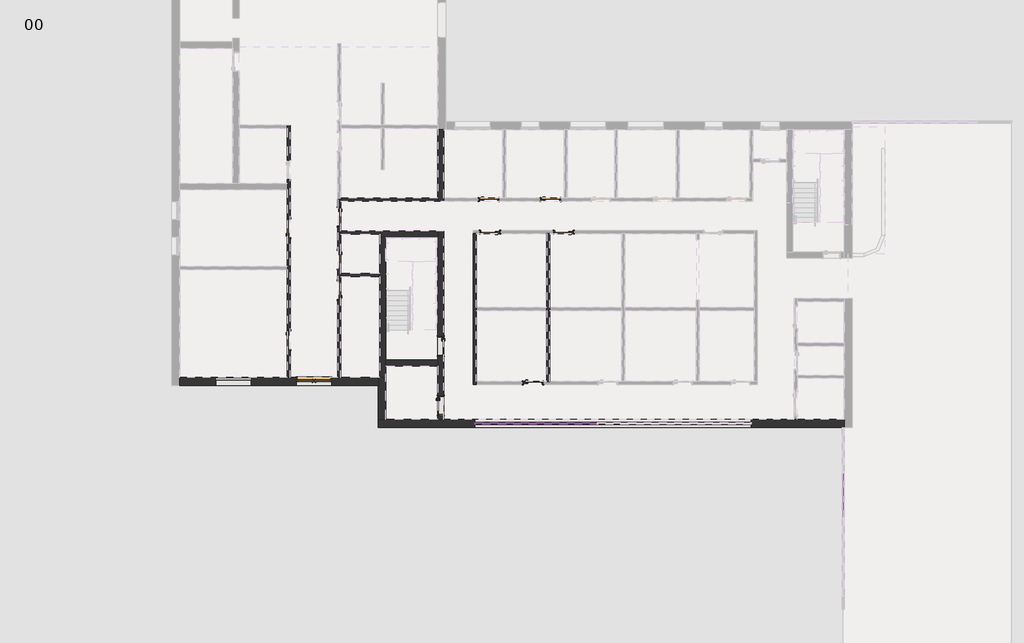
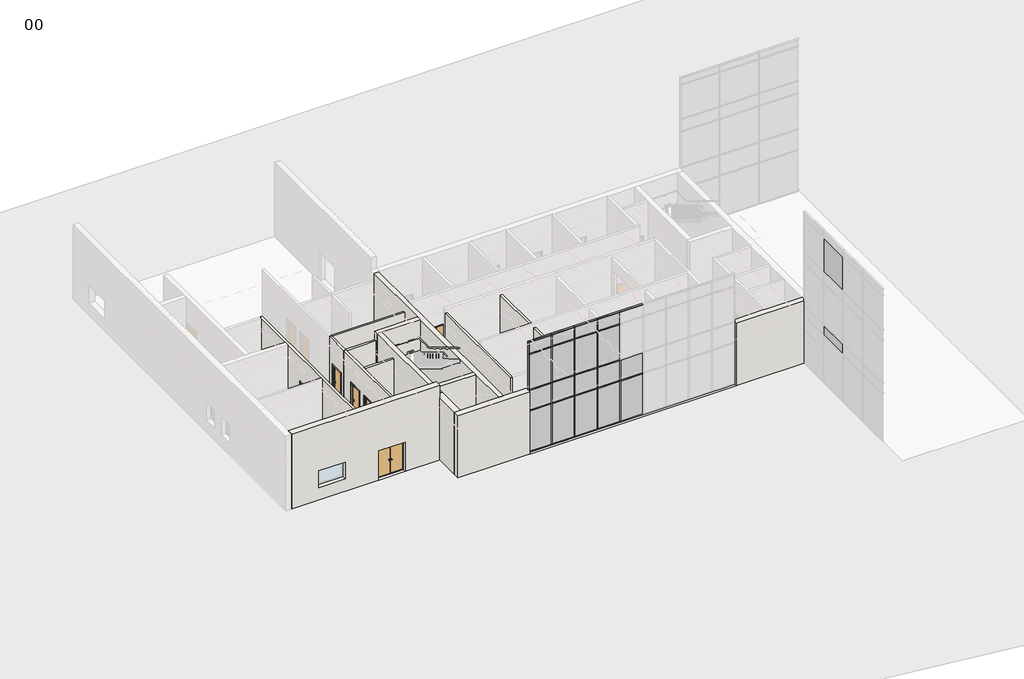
# One storey, part 2 of 11: 39 members, 20 plates, 15 walls, 13 doors.
"""IFC4 building model written with IfcOpenShell, lengths in millimetres."""

from ifc_helpers import new_model, si_unit, frame, origin, origin_with_axes, place, context, project, spatial, polyline, outline, extrude, faceted_brep, transform, mapped, element, save
from components import doors_intsgl_1_1010x2110mm_7920e6b8, doors_intsgl_1_1010x2110mm_12a6edaf, doors_intsgl_1_1010x2110mm_5517da8e, doors_intsgl_1_1010x2110mm_5eebe40c, doors_sco_extdbl_flush_1810x2110mm_3cdf6cdb, rectangular_mullion_curtainwallmullion_rectangular_generic_c971d07e, rectangular_mullion_curtainwallmullion_rectangular_generic_e6673756, rectangular_mullion_curtainwallmullion_rectangular_generic_facbbd22, rectangular_mullion_curtainwallmullion_rectangular_generic_58e5e5d2, rectangular_mullion_curtainwallmullion_rectangular_generic_63c9f2cf, rectangular_mullion_curtainwallmullion_rectangular_generic_d70bf6dd, rectangular_mullion_curtainwallmullion_rectangular_generic_654ac675, rectangular_mullion_curtainwallmullion_rectangular_generic_e7c47ca9, rectangular_mullion_curtainwallmullion_rectangular_generic_f3eef52e, rectangular_mullion_curtainwallmullion_rectangular_generic_c0600e94, rectangular_mullion_curtainwallmullion_rectangular_generic_0bcd7f07, rectangular_mullion_curtainwallmullion_rectangular_generic_3bdb59d8, system_panel_curtainpanel_glazed_c42a0534, system_panel_curtainpanel_glazed_c680861d, system_panel_curtainpanel_glazed_7c054268, system_panel_curtainpanel_solid_d52ec4f6, system_panel_curtainpanel_solid_5b00d7df, system_panel_curtainpanel_solid_a154ba9f

model = new_model("IFC4")

# Units and contexts
model_context = context("Model", 3, world=origin())
ifc_project = project(units=[si_unit("LENGTHUNIT", "METRE", prefix="MILLI")], contexts=[model_context])

# Site, building, storey
site = spatial("IfcSite", under=ifc_project)
building = spatial("IfcBuilding", under=site)
storey = spatial("IfcBuildingStorey", under=building, Name="00", Elevation=0.0)

# Doors
placement = place(None, origin())
doors_intsgl_1_1010x2110mm_shape = doors_intsgl_1_1010x2110mm_7920e6b8(model_context)
element("IfcDoor", 1, ObjectType="Doors_IntSgl_1 : 1010x2110mm", at=placement, inside=storey, context=model_context, shape_type="MappedRepresentation", body=[
    mapped(doors_intsgl_1_1010x2110mm_shape, transform((417435.3206883, -392289.0026386, 0.0), x_axis=(0.0, -1.0, 0.0), y_axis=(1.0, 0.0, 0.0), z_axis=(0.0, 0.0, 1.0))),
])
doors_intsgl_1_1010x2110mm_2_shape = doors_intsgl_1_1010x2110mm_12a6edaf(model_context)
element("IfcDoor", 2, ObjectType="Doors_IntSgl_1 : 1010x2110mm", at=placement, inside=storey, context=model_context, shape_type="MappedRepresentation", body=[
    mapped(doors_intsgl_1_1010x2110mm_2_shape, transform((427617.3206883, -385124.0026386, 0.0), x_axis=(1.0, 0.0, 0.0), y_axis=(0.0, 1.0, 0.0), z_axis=(0.0, 0.0, 1.0))),
])
element("IfcDoor", 3, ObjectType="Doors_IntSgl_1 : 1010x2110mm", at=placement, inside=storey, context=model_context, shape_type="MappedRepresentation", body=[
    mapped(doors_intsgl_1_1010x2110mm_2_shape, transform((430767.3206883, -385124.0026386, 0.0), x_axis=(1.0, 0.0, 0.0), y_axis=(0.0, 1.0, 0.0), z_axis=(0.0, 0.0, 1.0))),
])
element("IfcDoor", 4, ObjectType="Doors_IntSgl_1 : 1010x2110mm", at=placement, inside=storey, context=model_context, shape_type="MappedRepresentation", body=[
    mapped(doors_intsgl_1_1010x2110mm_2_shape, transform((417435.3206883, -386584.0026386, 0.0), x_axis=(0.0, 1.0, 0.0), y_axis=(-1.0, 0.0, 0.0), z_axis=(0.0, 0.0, 1.0))),
])
element("IfcDoor", 5, ObjectType="Doors_IntSgl_1 : 1010x2110mm", at=placement, inside=storey, context=model_context, shape_type="MappedRepresentation", body=[
    mapped(doors_intsgl_1_1010x2110mm_shape, transform((419987.3206883, -389744.0026386, 0.0), x_axis=(0.0, 1.0, 0.0), y_axis=(-1.0, 0.0, 0.0), z_axis=(0.0, 0.0, 1.0))),
])
element("IfcDoor", 6, ObjectType="Doors_IntSgl_1 : 1010x2110mm", at=placement, inside=storey, context=model_context, shape_type="MappedRepresentation", body=[
    mapped(doors_intsgl_1_1010x2110mm_2_shape, transform((419987.3206883, -388184.0026386, 0.0), x_axis=(0.0, -1.0, 0.0), y_axis=(1.0, 0.0, 0.0), z_axis=(0.0, 0.0, 1.0))),
])
element("IfcDoor", 7, ObjectType="Doors_IntSgl_1 : 1010x2110mm", at=placement, inside=storey, context=model_context, shape_type="MappedRepresentation", body=[
    mapped(doors_intsgl_1_1010x2110mm_2_shape, transform((419987.3206883, -386006.5026386, 0.0), x_axis=(0.0, -1.0, 0.0), y_axis=(1.0, 0.0, 0.0), z_axis=(0.0, 0.0, 1.0))),
])
element("IfcDoor", 8, ObjectType="Doors_IntSgl_1 : 1010x2110mm", at=placement, inside=storey, context=model_context, shape_type="MappedRepresentation", body=[
    mapped(doors_intsgl_1_1010x2110mm_2_shape, transform((429873.3206883, -394469.0026386, 0.0), x_axis=(1.0, 0.0, 0.0), y_axis=(0.0, 1.0, 0.0), z_axis=(0.0, 0.0, 1.0))),
])
element("IfcDoor", 9, ObjectType="Doors_IntSgl_1 : 1010x2110mm", at=placement, inside=storey, context=model_context, shape_type="MappedRepresentation", body=[
    mapped(doors_intsgl_1_1010x2110mm_2_shape, transform((431433.3206883, -386774.0026386, 0.0), x_axis=(-1.0, 0.0, 0.0), y_axis=(0.0, -1.0, 0.0), z_axis=(0.0, 0.0, 1.0))),
])
element("IfcDoor", 10, ObjectType="Doors_IntSgl_1 : 1010x2110mm", at=placement, inside=storey, context=model_context, shape_type="MappedRepresentation", body=[
    mapped(doors_intsgl_1_1010x2110mm_2_shape, transform((427677.3206883, -386774.0026386, 0.0), x_axis=(-1.0, 0.0, 0.0), y_axis=(0.0, -1.0, 0.0), z_axis=(0.0, 0.0, 1.0))),
])
doors_intsgl_1_1010x2110mm_3_shape = doors_intsgl_1_1010x2110mm_5517da8e(model_context)
element("IfcDoor", 11, ObjectType="Doors_IntSgl_1 : 1010x2110mm", at=placement, inside=storey, context=model_context, shape_type="MappedRepresentation", body=[
    mapped(doors_intsgl_1_1010x2110mm_3_shape, transform((425167.3206883, -392594.0026386, 0.0), x_axis=(0.0, -1.0, 0.0), y_axis=(1.0, 0.0, 0.0), z_axis=(0.0, 0.0, 1.0))),
])
doors_intsgl_1_1010x2110mm_4_shape = doors_intsgl_1_1010x2110mm_5eebe40c(model_context)
element("IfcDoor", 12, ObjectType="Doors_IntSgl_1 : 1010x2110mm", at=placement, inside=storey, context=model_context, shape_type="MappedRepresentation", body=[
    mapped(doors_intsgl_1_1010x2110mm_4_shape, transform((425167.3206883, -395623.0026386, 0.0), x_axis=(0.0, -1.0, 0.0), y_axis=(1.0, 0.0, 0.0), z_axis=(0.0, 0.0, 1.0))),
])
doors_sco_extdbl_flush_1810x2110mm_shape = doors_sco_extdbl_flush_1810x2110mm_3cdf6cdb(model_context)
element("IfcDoor", 13, ObjectType="Doors_SCO_ExtDbl_Flush : 1810x2110mm", at=placement, inside=storey, context=model_context, shape_type="MappedRepresentation", body=[
    mapped(doors_sco_extdbl_flush_1810x2110mm_shape, transform((418711.3206883, -394395.0026386, 0.0), x_axis=(1.0, 0.0, 0.0), y_axis=(0.0, 1.0, 0.0), z_axis=(0.0, 0.0, 1.0))),
])

# Members
rectangular_mullion_curtainwallmullion_rectangular_generic_shape = rectangular_mullion_curtainwallmullion_rectangular_generic_c971d07e(model_context)
element("IfcMember", 14, ObjectType="Rectangular Mullion : CurtainWallMullion_Rectangular_Generic", at=placement, inside=storey, context=model_context, shape_type="MappedRepresentation", body=[
    mapped(rectangular_mullion_curtainwallmullion_rectangular_generic_shape, transform((433166.7651328, -396529.0026386, 8000.0), x_axis=(0.0, 0.0, 1.0), y_axis=(0.0, 1.0, 0.0), z_axis=(-1.0, 0.0, 0.0))),
])
element("IfcMember", 15, ObjectType="Rectangular Mullion : CurtainWallMullion_Rectangular_Generic", at=placement, inside=storey, context=model_context, shape_type="MappedRepresentation", body=[
    mapped(rectangular_mullion_curtainwallmullion_rectangular_generic_shape, transform((431605.6540218, -396529.0026386, 8000.0), x_axis=(0.0, 0.0, 1.0), y_axis=(0.0, 1.0, 0.0), z_axis=(-1.0, 0.0, 0.0))),
])
element("IfcMember", 16, ObjectType="Rectangular Mullion : CurtainWallMullion_Rectangular_Generic", at=placement, inside=storey, context=model_context, shape_type="MappedRepresentation", body=[
    mapped(rectangular_mullion_curtainwallmullion_rectangular_generic_shape, transform((430044.5429107, -396529.0026386, 8000.0), x_axis=(0.0, 0.0, 1.0), y_axis=(0.0, 1.0, 0.0), z_axis=(-1.0, 0.0, 0.0))),
])
element("IfcMember", 17, ObjectType="Rectangular Mullion : CurtainWallMullion_Rectangular_Generic", at=placement, inside=storey, context=model_context, shape_type="MappedRepresentation", body=[
    mapped(rectangular_mullion_curtainwallmullion_rectangular_generic_shape, transform((428483.4317997, -396529.0026386, 8000.0), x_axis=(0.0, 0.0, 1.0), y_axis=(0.0, 1.0, 0.0), z_axis=(-1.0, 0.0, 0.0))),
])
element("IfcMember", 18, ObjectType="Rectangular Mullion : CurtainWallMullion_Rectangular_Generic", at=placement, inside=storey, context=model_context, shape_type="MappedRepresentation", body=[
    mapped(rectangular_mullion_curtainwallmullion_rectangular_generic_shape, transform((433166.7651328, -396529.0026386, 0.0), x_axis=(0.0, 0.0, -1.0), y_axis=(0.0, 1.0, 0.0), z_axis=(1.0, 0.0, 0.0))),
])
element("IfcMember", 19, ObjectType="Rectangular Mullion : CurtainWallMullion_Rectangular_Generic", at=placement, inside=storey, context=model_context, shape_type="MappedRepresentation", body=[
    mapped(rectangular_mullion_curtainwallmullion_rectangular_generic_shape, transform((431605.6540218, -396529.0026386, 0.0), x_axis=(0.0, 0.0, -1.0), y_axis=(0.0, 1.0, 0.0), z_axis=(1.0, 0.0, 0.0))),
])
element("IfcMember", 20, ObjectType="Rectangular Mullion : CurtainWallMullion_Rectangular_Generic", at=placement, inside=storey, context=model_context, shape_type="MappedRepresentation", body=[
    mapped(rectangular_mullion_curtainwallmullion_rectangular_generic_shape, transform((430044.5429107, -396529.0026386, 0.0), x_axis=(0.0, 0.0, -1.0), y_axis=(0.0, 1.0, 0.0), z_axis=(1.0, 0.0, 0.0))),
])
rectangular_mullion_curtainwallmullion_rectangular_generic_2_shape = rectangular_mullion_curtainwallmullion_rectangular_generic_e6673756(model_context)
element("IfcMember", 21, ObjectType="Rectangular Mullion : CurtainWallMullion_Rectangular_Generic", at=placement, inside=storey, context=model_context, shape_type="MappedRepresentation", body=[
    mapped(rectangular_mullion_curtainwallmullion_rectangular_generic_2_shape, transform((433191.7651328, -396529.0026386, 3000.0), x_axis=(0.0, 0.0, 1.0), y_axis=(0.0, 1.0, 0.0), z_axis=(-1.0, 0.0, 0.0))),
])
element("IfcMember", 22, ObjectType="Rectangular Mullion : CurtainWallMullion_Rectangular_Generic", at=placement, inside=storey, context=model_context, shape_type="MappedRepresentation", body=[
    mapped(rectangular_mullion_curtainwallmullion_rectangular_generic_2_shape, transform((431630.6540218, -396529.0026386, 3000.0), x_axis=(0.0, 0.0, 1.0), y_axis=(0.0, 1.0, 0.0), z_axis=(-1.0, 0.0, 0.0))),
])
element("IfcMember", 23, ObjectType="Rectangular Mullion : CurtainWallMullion_Rectangular_Generic", at=placement, inside=storey, context=model_context, shape_type="MappedRepresentation", body=[
    mapped(rectangular_mullion_curtainwallmullion_rectangular_generic_2_shape, transform((430069.5429107, -396529.0026386, 3000.0), x_axis=(0.0, 0.0, 1.0), y_axis=(0.0, 1.0, 0.0), z_axis=(-1.0, 0.0, 0.0))),
])
element("IfcMember", 24, ObjectType="Rectangular Mullion : CurtainWallMullion_Rectangular_Generic", at=placement, inside=storey, context=model_context, shape_type="MappedRepresentation", body=[
    mapped(rectangular_mullion_curtainwallmullion_rectangular_generic_2_shape, transform((428508.4317997, -396529.0026386, 3000.0), x_axis=(0.0, 0.0, 1.0), y_axis=(0.0, 1.0, 0.0), z_axis=(-1.0, 0.0, 0.0))),
])
element("IfcMember", 25, ObjectType="Rectangular Mullion : CurtainWallMullion_Rectangular_Generic", at=placement, inside=storey, context=model_context, shape_type="MappedRepresentation", body=[
    mapped(rectangular_mullion_curtainwallmullion_rectangular_generic_2_shape, transform((426947.3206883, -396529.0026386, 3000.0), x_axis=(0.0, 0.0, 1.0), y_axis=(0.0, 1.0, 0.0), z_axis=(-1.0, 0.0, 0.0))),
])
element("IfcMember", 26, ObjectType="Rectangular Mullion : CurtainWallMullion_Rectangular_Generic", at=placement, inside=storey, context=model_context, shape_type="MappedRepresentation", body=[
    mapped(rectangular_mullion_curtainwallmullion_rectangular_generic_2_shape, transform((431630.6540218, -396529.0026386, 4500.0), x_axis=(0.0, 0.0, 1.0), y_axis=(0.0, 1.0, 0.0), z_axis=(-1.0, 0.0, 0.0))),
])
element("IfcMember", 27, ObjectType="Rectangular Mullion : CurtainWallMullion_Rectangular_Generic", at=placement, inside=storey, context=model_context, shape_type="MappedRepresentation", body=[
    mapped(rectangular_mullion_curtainwallmullion_rectangular_generic_2_shape, transform((430069.5429107, -396529.0026386, 4500.0), x_axis=(0.0, 0.0, 1.0), y_axis=(0.0, 1.0, 0.0), z_axis=(-1.0, 0.0, 0.0))),
])
element("IfcMember", 28, ObjectType="Rectangular Mullion : CurtainWallMullion_Rectangular_Generic", at=placement, inside=storey, context=model_context, shape_type="MappedRepresentation", body=[
    mapped(rectangular_mullion_curtainwallmullion_rectangular_generic_2_shape, transform((428508.4317997, -396529.0026386, 4500.0), x_axis=(0.0, 0.0, 1.0), y_axis=(0.0, 1.0, 0.0), z_axis=(-1.0, 0.0, 0.0))),
])
element("IfcMember", 29, ObjectType="Rectangular Mullion : CurtainWallMullion_Rectangular_Generic", at=placement, inside=storey, context=model_context, shape_type="MappedRepresentation", body=[
    mapped(rectangular_mullion_curtainwallmullion_rectangular_generic_2_shape, transform((426947.3206883, -396529.0026386, 4500.0), x_axis=(0.0, 0.0, 1.0), y_axis=(0.0, 1.0, 0.0), z_axis=(-1.0, 0.0, 0.0))),
])
element("IfcMember", 30, ObjectType="Rectangular Mullion : CurtainWallMullion_Rectangular_Generic", at=placement, inside=storey, context=model_context, shape_type="MappedRepresentation", body=[
    mapped(rectangular_mullion_curtainwallmullion_rectangular_generic_2_shape, transform((431630.6540218, -396529.0026386, 7100.0), x_axis=(0.0, 0.0, 1.0), y_axis=(0.0, 1.0, 0.0), z_axis=(-1.0, 0.0, 0.0))),
])
element("IfcMember", 31, ObjectType="Rectangular Mullion : CurtainWallMullion_Rectangular_Generic", at=placement, inside=storey, context=model_context, shape_type="MappedRepresentation", body=[
    mapped(rectangular_mullion_curtainwallmullion_rectangular_generic_2_shape, transform((430069.5429107, -396529.0026386, 7100.0), x_axis=(0.0, 0.0, 1.0), y_axis=(0.0, 1.0, 0.0), z_axis=(-1.0, 0.0, 0.0))),
])
element("IfcMember", 32, ObjectType="Rectangular Mullion : CurtainWallMullion_Rectangular_Generic", at=placement, inside=storey, context=model_context, shape_type="MappedRepresentation", body=[
    mapped(rectangular_mullion_curtainwallmullion_rectangular_generic_2_shape, transform((428508.4317997, -396529.0026386, 7100.0), x_axis=(0.0, 0.0, 1.0), y_axis=(0.0, 1.0, 0.0), z_axis=(-1.0, 0.0, 0.0))),
])
element("IfcMember", 33, ObjectType="Rectangular Mullion : CurtainWallMullion_Rectangular_Generic", at=placement, inside=storey, context=model_context, shape_type="MappedRepresentation", body=[
    mapped(rectangular_mullion_curtainwallmullion_rectangular_generic_2_shape, transform((426947.3206883, -396529.0026386, 7100.0), x_axis=(0.0, 0.0, 1.0), y_axis=(0.0, 1.0, 0.0), z_axis=(-1.0, 0.0, 0.0))),
])
rectangular_mullion_curtainwallmullion_rectangular_generic_3_shape = rectangular_mullion_curtainwallmullion_rectangular_generic_facbbd22(model_context)
element("IfcMember", 34, ObjectType="Rectangular Mullion : CurtainWallMullion_Rectangular_Generic", at=placement, inside=storey, context=model_context, shape_type="MappedRepresentation", body=[
    mapped(rectangular_mullion_curtainwallmullion_rectangular_generic_3_shape, transform((426897.3206883, -396529.0026386, 8000.0), x_axis=(0.0, 0.0, 1.0), y_axis=(0.0, 1.0, 0.0), z_axis=(-1.0, 0.0, 0.0))),
])
rectangular_mullion_curtainwallmullion_rectangular_generic_4_shape = rectangular_mullion_curtainwallmullion_rectangular_generic_58e5e5d2(model_context)
element("IfcMember", 35, ObjectType="Rectangular Mullion : CurtainWallMullion_Rectangular_Generic", at=placement, inside=storey, context=model_context, shape_type="MappedRepresentation", body=[
    mapped(rectangular_mullion_curtainwallmullion_rectangular_generic_4_shape, transform((428483.4317997, -396529.0026386, 0.0), x_axis=(0.0, 0.0, -1.0), y_axis=(0.0, 1.0, 0.0), z_axis=(1.0, 0.0, 0.0))),
])
rectangular_mullion_curtainwallmullion_rectangular_generic_5_shape = rectangular_mullion_curtainwallmullion_rectangular_generic_63c9f2cf(model_context)
element("IfcMember", 36, ObjectType="Rectangular Mullion : CurtainWallMullion_Rectangular_Generic", at=placement, inside=storey, context=model_context, shape_type="MappedRepresentation", body=[
    mapped(rectangular_mullion_curtainwallmullion_rectangular_generic_5_shape, transform((431605.6540218, -396529.0026386, 7100.0), x_axis=(-1.0, 0.0, 0.0), y_axis=(0.0, 1.0, 0.0), z_axis=(0.0, 0.0, -1.0))),
])
element("IfcMember", 37, ObjectType="Rectangular Mullion : CurtainWallMullion_Rectangular_Generic", at=placement, inside=storey, context=model_context, shape_type="MappedRepresentation", body=[
    mapped(rectangular_mullion_curtainwallmullion_rectangular_generic_5_shape, transform((430044.5429107, -396529.0026386, 7100.0), x_axis=(-1.0, 0.0, 0.0), y_axis=(0.0, 1.0, 0.0), z_axis=(0.0, 0.0, -1.0))),
])
element("IfcMember", 38, ObjectType="Rectangular Mullion : CurtainWallMullion_Rectangular_Generic", at=placement, inside=storey, context=model_context, shape_type="MappedRepresentation", body=[
    mapped(rectangular_mullion_curtainwallmullion_rectangular_generic_5_shape, transform((428483.4317997, -396529.0026386, 7100.0), x_axis=(-1.0, 0.0, 0.0), y_axis=(0.0, 1.0, 0.0), z_axis=(0.0, 0.0, -1.0))),
])
rectangular_mullion_curtainwallmullion_rectangular_generic_6_shape = rectangular_mullion_curtainwallmullion_rectangular_generic_d70bf6dd(model_context)
element("IfcMember", 39, ObjectType="Rectangular Mullion : CurtainWallMullion_Rectangular_Generic", at=placement, inside=storey, context=model_context, shape_type="MappedRepresentation", body=[
    mapped(rectangular_mullion_curtainwallmullion_rectangular_generic_6_shape, transform((426897.3206883, -396529.0026386, 7100.0), x_axis=(-1.0, 0.0, 0.0), y_axis=(0.0, 1.0, 0.0), z_axis=(0.0, 0.0, -1.0))),
])
rectangular_mullion_curtainwallmullion_rectangular_generic_7_shape = rectangular_mullion_curtainwallmullion_rectangular_generic_654ac675(model_context)
element("IfcMember", 40, ObjectType="Rectangular Mullion : CurtainWallMullion_Rectangular_Generic", at=placement, inside=storey, context=model_context, shape_type="MappedRepresentation", body=[
    mapped(rectangular_mullion_curtainwallmullion_rectangular_generic_7_shape, transform((431605.6540218, -396529.0026386, 4500.0), x_axis=(-1.0, 0.0, 0.0), y_axis=(0.0, 1.0, 0.0), z_axis=(0.0, 0.0, -1.0))),
])
element("IfcMember", 41, ObjectType="Rectangular Mullion : CurtainWallMullion_Rectangular_Generic", at=placement, inside=storey, context=model_context, shape_type="MappedRepresentation", body=[
    mapped(rectangular_mullion_curtainwallmullion_rectangular_generic_7_shape, transform((430044.5429107, -396529.0026386, 4500.0), x_axis=(-1.0, 0.0, 0.0), y_axis=(0.0, 1.0, 0.0), z_axis=(0.0, 0.0, -1.0))),
])
element("IfcMember", 42, ObjectType="Rectangular Mullion : CurtainWallMullion_Rectangular_Generic", at=placement, inside=storey, context=model_context, shape_type="MappedRepresentation", body=[
    mapped(rectangular_mullion_curtainwallmullion_rectangular_generic_7_shape, transform((428483.4317997, -396529.0026386, 4500.0), x_axis=(-1.0, 0.0, 0.0), y_axis=(0.0, 1.0, 0.0), z_axis=(0.0, 0.0, -1.0))),
])
rectangular_mullion_curtainwallmullion_rectangular_generic_8_shape = rectangular_mullion_curtainwallmullion_rectangular_generic_e7c47ca9(model_context)
element("IfcMember", 43, ObjectType="Rectangular Mullion : CurtainWallMullion_Rectangular_Generic", at=placement, inside=storey, context=model_context, shape_type="MappedRepresentation", body=[
    mapped(rectangular_mullion_curtainwallmullion_rectangular_generic_8_shape, transform((426897.3206883, -396529.0026386, 4500.0), x_axis=(-1.0, 0.0, 0.0), y_axis=(0.0, 1.0, 0.0), z_axis=(0.0, 0.0, -1.0))),
])
rectangular_mullion_curtainwallmullion_rectangular_generic_9_shape = rectangular_mullion_curtainwallmullion_rectangular_generic_f3eef52e(model_context)
element("IfcMember", 44, ObjectType="Rectangular Mullion : CurtainWallMullion_Rectangular_Generic", at=placement, inside=storey, context=model_context, shape_type="MappedRepresentation", body=[
    mapped(rectangular_mullion_curtainwallmullion_rectangular_generic_9_shape, transform((433166.7651328, -396529.0026386, 50.0), x_axis=(-1.0, 0.0, 0.0), y_axis=(0.0, 1.0, 0.0), z_axis=(0.0, 0.0, -1.0))),
])
element("IfcMember", 45, ObjectType="Rectangular Mullion : CurtainWallMullion_Rectangular_Generic", at=placement, inside=storey, context=model_context, shape_type="MappedRepresentation", body=[
    mapped(rectangular_mullion_curtainwallmullion_rectangular_generic_9_shape, transform((431605.6540218, -396529.0026386, 50.0), x_axis=(-1.0, 0.0, 0.0), y_axis=(0.0, 1.0, 0.0), z_axis=(0.0, 0.0, -1.0))),
])
element("IfcMember", 46, ObjectType="Rectangular Mullion : CurtainWallMullion_Rectangular_Generic", at=placement, inside=storey, context=model_context, shape_type="MappedRepresentation", body=[
    mapped(rectangular_mullion_curtainwallmullion_rectangular_generic_9_shape, transform((430044.5429107, -396529.0026386, 50.0), x_axis=(-1.0, 0.0, 0.0), y_axis=(0.0, 1.0, 0.0), z_axis=(0.0, 0.0, -1.0))),
])
element("IfcMember", 47, ObjectType="Rectangular Mullion : CurtainWallMullion_Rectangular_Generic", at=placement, inside=storey, context=model_context, shape_type="MappedRepresentation", body=[
    mapped(rectangular_mullion_curtainwallmullion_rectangular_generic_9_shape, transform((428483.4317997, -396529.0026386, 50.0), x_axis=(-1.0, 0.0, 0.0), y_axis=(0.0, 1.0, 0.0), z_axis=(0.0, 0.0, -1.0))),
])
rectangular_mullion_curtainwallmullion_rectangular_generic_10_shape = rectangular_mullion_curtainwallmullion_rectangular_generic_c0600e94(model_context)
element("IfcMember", 48, ObjectType="Rectangular Mullion : CurtainWallMullion_Rectangular_Generic", at=placement, inside=storey, context=model_context, shape_type="MappedRepresentation", body=[
    mapped(rectangular_mullion_curtainwallmullion_rectangular_generic_10_shape, transform((431605.6540218, -396529.0026386, 3000.0), x_axis=(-1.0, 0.0, 0.0), y_axis=(0.0, 1.0, 0.0), z_axis=(0.0, 0.0, -1.0))),
])
element("IfcMember", 49, ObjectType="Rectangular Mullion : CurtainWallMullion_Rectangular_Generic", at=placement, inside=storey, context=model_context, shape_type="MappedRepresentation", body=[
    mapped(rectangular_mullion_curtainwallmullion_rectangular_generic_10_shape, transform((430044.5429107, -396529.0026386, 3000.0), x_axis=(-1.0, 0.0, 0.0), y_axis=(0.0, 1.0, 0.0), z_axis=(0.0, 0.0, -1.0))),
])
element("IfcMember", 50, ObjectType="Rectangular Mullion : CurtainWallMullion_Rectangular_Generic", at=placement, inside=storey, context=model_context, shape_type="MappedRepresentation", body=[
    mapped(rectangular_mullion_curtainwallmullion_rectangular_generic_10_shape, transform((428483.4317997, -396529.0026386, 3000.0), x_axis=(-1.0, 0.0, 0.0), y_axis=(0.0, 1.0, 0.0), z_axis=(0.0, 0.0, -1.0))),
])
rectangular_mullion_curtainwallmullion_rectangular_generic_11_shape = rectangular_mullion_curtainwallmullion_rectangular_generic_0bcd7f07(model_context)
element("IfcMember", 51, ObjectType="Rectangular Mullion : CurtainWallMullion_Rectangular_Generic", at=placement, inside=storey, context=model_context, shape_type="MappedRepresentation", body=[
    mapped(rectangular_mullion_curtainwallmullion_rectangular_generic_11_shape, transform((426897.3206883, -396529.0026386, 50.0), x_axis=(-1.0, 0.0, 0.0), y_axis=(0.0, 1.0, 0.0), z_axis=(0.0, 0.0, -1.0))),
])
rectangular_mullion_curtainwallmullion_rectangular_generic_12_shape = rectangular_mullion_curtainwallmullion_rectangular_generic_3bdb59d8(model_context)
element("IfcMember", 52, ObjectType="Rectangular Mullion : CurtainWallMullion_Rectangular_Generic", at=placement, inside=storey, context=model_context, shape_type="MappedRepresentation", body=[
    mapped(rectangular_mullion_curtainwallmullion_rectangular_generic_12_shape, transform((426897.3206883, -396529.0026386, 3000.0), x_axis=(-1.0, 0.0, 0.0), y_axis=(0.0, 1.0, 0.0), z_axis=(0.0, 0.0, -1.0))),
])

# Plates
system_panel_curtainpanel_glazed_shape = system_panel_curtainpanel_glazed_c42a0534(model_context)
element("IfcPlate", 53, ObjectType="System Panel : CurtainPanel_Glazed", at=placement, inside=storey, context=model_context, shape_type="MappedRepresentation", body=[
    mapped(system_panel_curtainpanel_glazed_shape, transform((445668.3206883, -400195.8026387, 8025.0), x_axis=(0.0, 1.0, 0.0), y_axis=(-1.0, 0.0, 0.0), z_axis=(0.0, 0.0, 1.0))),
])
system_panel_curtainpanel_glazed_2_shape = system_panel_curtainpanel_glazed_c680861d(model_context)
element("IfcPlate", 54, ObjectType="System Panel : CurtainPanel_Glazed", at=placement, inside=storey, context=model_context, shape_type="MappedRepresentation", body=[
    mapped(system_panel_curtainpanel_glazed_2_shape, transform((432386.2095773, -396529.0026386, 4525.0), x_axis=(-1.0, 0.0, 0.0), y_axis=(0.0, -1.0, 0.0), z_axis=(0.0, 0.0, 1.0))),
])
element("IfcPlate", 55, ObjectType="System Panel : CurtainPanel_Glazed", at=placement, inside=storey, context=model_context, shape_type="MappedRepresentation", body=[
    mapped(system_panel_curtainpanel_glazed_2_shape, transform((430825.0984662, -396529.0026386, 4525.0), x_axis=(-1.0, 0.0, 0.0), y_axis=(0.0, -1.0, 0.0), z_axis=(0.0, 0.0, 1.0))),
])
element("IfcPlate", 56, ObjectType="System Panel : CurtainPanel_Glazed", at=placement, inside=storey, context=model_context, shape_type="MappedRepresentation", body=[
    mapped(system_panel_curtainpanel_glazed_2_shape, transform((429263.9873552, -396529.0026386, 4525.0), x_axis=(-1.0, 0.0, 0.0), y_axis=(0.0, -1.0, 0.0), z_axis=(0.0, 0.0, 1.0))),
])
element("IfcPlate", 57, ObjectType="System Panel : CurtainPanel_Glazed", at=placement, inside=storey, context=model_context, shape_type="MappedRepresentation", body=[
    mapped(system_panel_curtainpanel_glazed_2_shape, transform((427702.876244, -396529.0026386, 4525.0), x_axis=(-1.0, 0.0, 0.0), y_axis=(0.0, -1.0, 0.0), z_axis=(0.0, 0.0, 1.0))),
])
system_panel_curtainpanel_glazed_3_shape = system_panel_curtainpanel_glazed_7c054268(model_context)
element("IfcPlate", 58, ObjectType="System Panel : CurtainPanel_Glazed", at=placement, inside=storey, context=model_context, shape_type="MappedRepresentation", body=[
    mapped(system_panel_curtainpanel_glazed_3_shape, transform((433947.3206883, -396529.0026386, 50.0), x_axis=(-1.0, 0.0, 0.0), y_axis=(0.0, -1.0, 0.0), z_axis=(0.0, 0.0, 1.0))),
])
element("IfcPlate", 59, ObjectType="System Panel : CurtainPanel_Glazed", at=placement, inside=storey, context=model_context, shape_type="MappedRepresentation", body=[
    mapped(system_panel_curtainpanel_glazed_3_shape, transform((432386.2095773, -396529.0026386, 50.0), x_axis=(-1.0, 0.0, 0.0), y_axis=(0.0, -1.0, 0.0), z_axis=(0.0, 0.0, 1.0))),
])
element("IfcPlate", 60, ObjectType="System Panel : CurtainPanel_Glazed", at=placement, inside=storey, context=model_context, shape_type="MappedRepresentation", body=[
    mapped(system_panel_curtainpanel_glazed_3_shape, transform((430825.0984662, -396529.0026386, 50.0), x_axis=(-1.0, 0.0, 0.0), y_axis=(0.0, -1.0, 0.0), z_axis=(0.0, 0.0, 1.0))),
])
element("IfcPlate", 61, ObjectType="System Panel : CurtainPanel_Glazed", at=placement, inside=storey, context=model_context, shape_type="MappedRepresentation", body=[
    mapped(system_panel_curtainpanel_glazed_3_shape, transform((429263.9873552, -396529.0026386, 50.0), x_axis=(-1.0, 0.0, 0.0), y_axis=(0.0, -1.0, 0.0), z_axis=(0.0, 0.0, 1.0))),
])
element("IfcPlate", 62, ObjectType="System Panel : CurtainPanel_Glazed", at=placement, inside=storey, context=model_context, shape_type="MappedRepresentation", body=[
    mapped(system_panel_curtainpanel_glazed_3_shape, transform((427702.876244, -396529.0026386, 50.0), x_axis=(-1.0, 0.0, 0.0), y_axis=(0.0, -1.0, 0.0), z_axis=(0.0, 0.0, 1.0))),
])
system_panel_curtainpanel_solid_shape = system_panel_curtainpanel_solid_d52ec4f6(model_context)
element("IfcPlate", 63, ObjectType="System Panel : CurtainPanel_Solid", at=placement, inside=storey, context=model_context, shape_type="MappedRepresentation", body=[
    mapped(system_panel_curtainpanel_solid_shape, transform((445668.3206883, -400195.8026387, 3450.0), x_axis=(0.0, 1.0, 0.0), y_axis=(-1.0, 0.0, 0.0), z_axis=(0.0, 0.0, 1.0))),
])
system_panel_curtainpanel_solid_2_shape = system_panel_curtainpanel_solid_5b00d7df(model_context)
element("IfcPlate", 64, ObjectType="System Panel : CurtainPanel_Solid", at=placement, inside=storey, context=model_context, shape_type="MappedRepresentation", body=[
    mapped(system_panel_curtainpanel_solid_2_shape, transform((432386.2095773, -396529.0026386, 7125.0), x_axis=(-1.0, 0.0, 0.0), y_axis=(0.0, -1.0, 0.0), z_axis=(0.0, 0.0, 1.0))),
])
element("IfcPlate", 65, ObjectType="System Panel : CurtainPanel_Solid", at=placement, inside=storey, context=model_context, shape_type="MappedRepresentation", body=[
    mapped(system_panel_curtainpanel_solid_2_shape, transform((430825.0984662, -396529.0026386, 7125.0), x_axis=(-1.0, 0.0, 0.0), y_axis=(0.0, -1.0, 0.0), z_axis=(0.0, 0.0, 1.0))),
])
element("IfcPlate", 66, ObjectType="System Panel : CurtainPanel_Solid", at=placement, inside=storey, context=model_context, shape_type="MappedRepresentation", body=[
    mapped(system_panel_curtainpanel_solid_2_shape, transform((429263.9873552, -396529.0026386, 7125.0), x_axis=(-1.0, 0.0, 0.0), y_axis=(0.0, -1.0, 0.0), z_axis=(0.0, 0.0, 1.0))),
])
element("IfcPlate", 67, ObjectType="System Panel : CurtainPanel_Solid", at=placement, inside=storey, context=model_context, shape_type="MappedRepresentation", body=[
    mapped(system_panel_curtainpanel_solid_2_shape, transform((427702.876244, -396529.0026386, 7125.0), x_axis=(-1.0, 0.0, 0.0), y_axis=(0.0, -1.0, 0.0), z_axis=(0.0, 0.0, 1.0))),
])
system_panel_curtainpanel_solid_3_shape = system_panel_curtainpanel_solid_a154ba9f(model_context)
element("IfcPlate", 68, ObjectType="System Panel : CurtainPanel_Solid", at=placement, inside=storey, context=model_context, shape_type="MappedRepresentation", body=[
    mapped(system_panel_curtainpanel_solid_3_shape, transform((433947.3206883, -396529.0026386, 3025.0), x_axis=(-1.0, 0.0, 0.0), y_axis=(0.0, -1.0, 0.0), z_axis=(0.0, 0.0, 1.0))),
])
element("IfcPlate", 69, ObjectType="System Panel : CurtainPanel_Solid", at=placement, inside=storey, context=model_context, shape_type="MappedRepresentation", body=[
    mapped(system_panel_curtainpanel_solid_3_shape, transform((432386.2095773, -396529.0026386, 3025.0), x_axis=(-1.0, 0.0, 0.0), y_axis=(0.0, -1.0, 0.0), z_axis=(0.0, 0.0, 1.0))),
])
element("IfcPlate", 70, ObjectType="System Panel : CurtainPanel_Solid", at=placement, inside=storey, context=model_context, shape_type="MappedRepresentation", body=[
    mapped(system_panel_curtainpanel_solid_3_shape, transform((430825.0984662, -396529.0026386, 3025.0), x_axis=(-1.0, 0.0, 0.0), y_axis=(0.0, -1.0, 0.0), z_axis=(0.0, 0.0, 1.0))),
])
element("IfcPlate", 71, ObjectType="System Panel : CurtainPanel_Solid", at=placement, inside=storey, context=model_context, shape_type="MappedRepresentation", body=[
    mapped(system_panel_curtainpanel_solid_3_shape, transform((429263.9873552, -396529.0026386, 3025.0), x_axis=(-1.0, 0.0, 0.0), y_axis=(0.0, -1.0, 0.0), z_axis=(0.0, 0.0, 1.0))),
])
element("IfcPlate", 72, ObjectType="System Panel : CurtainPanel_Solid", at=placement, inside=storey, context=model_context, shape_type="MappedRepresentation", body=[
    mapped(system_panel_curtainpanel_solid_3_shape, transform((427702.876244, -396529.0026386, 3025.0), x_axis=(-1.0, 0.0, 0.0), y_axis=(0.0, -1.0, 0.0), z_axis=(0.0, 0.0, 1.0))),
])

# Walls
element("IfcWall", 73, ObjectType="Wall_Exterior_WSUK", at=placement, inside=storey, context=model_context, shape_type="Brep", body=[
    faceted_brep([(445738.3206883, -396328.0026386, -1000.0), (425322.3206883, -396328.0026386, -1000.0), (425012.3206883, -396328.0026386, -1000.0), (422376.3206883, -396328.0026386, -1000.0), (421974.3206883, -396328.0026386, -1000.0), (421974.3206883, -396328.0026386, 4500.0), (422376.3206883, -396328.0026386, 4500.0), (425012.3206883, -396328.0026386, 4500.0), (425322.3206883, -396328.0026386, 4500.0), (426897.3206883, -396328.0026386, 4500.0), (426897.3206883, -396328.0026386, 0.0), (440997.3206883, -396328.0026386, 0.0), (440997.3206883, -396328.0026386, 4500.0), (443188.3206883, -396328.0026386, 4500.0), (443338.3206883, -396328.0026386, 4500.0), (445738.3206883, -396328.0026386, 4500.0), (421974.3206883, -396730.0026386, -1000.0), (445738.3206883, -396730.0026386, -1000.0), (445738.3206883, -396730.0026386, 4500.0), (440997.3206883, -396730.0026386, 4500.0), (440997.3206883, -396730.0026386, 0.0), (426897.3206883, -396730.0026386, 0.0), (426897.3206883, -396730.0026386, 4500.0), (421974.3206883, -396730.0026386, 4500.0)], [[[0, 1, 2, 3, 4, 5, 6, 7, 8, 9, 10, 11, 12, 13, 14, 15]], [[16, 17, 18, 19, 20, 21, 22, 23]], [[4, 3, 2, 1, 0, 17, 16]], [[5, 23, 22, 9, 8, 7, 6]], [[18, 15, 14, 13, 12, 19]], [[5, 4, 16, 23]], [[15, 18, 17, 0]], [[11, 20, 19, 12]], [[21, 10, 9, 22]], [[20, 11, 10, 21]]]),
])
element("IfcWall", 74, ObjectType="Wall_Exterior_WSUK", at=placement, inside=storey, context=model_context, shape_type="Brep", body=[
    faceted_brep([(422376.3206883, -396328.0026386, -1000.0), (422376.3206883, -394194.0026386, -1000.0), (422376.3206883, -394194.0026386, 4500.0), (422376.3206883, -396328.0026386, 4500.0), (421974.3206883, -396328.0026386, -1000.0), (421974.3206883, -396328.0026386, 4500.0), (421974.3206883, -394194.0026386, 4500.0), (421974.3206883, -394194.0026386, -1000.0), (421974.3206883, -394596.0026386, -1000.0), (422066.3206883, -394194.0026386, -1000.0), (422066.3206883, -394194.0026386, 4500.0)], [[[0, 1, 2, 3]], [[4, 5, 6, 7, 8]], [[1, 0, 4, 8, 7, 9]], [[3, 2, 10, 6, 5]], [[0, 3, 5, 4]], [[2, 1, 9, 7, 6, 10]]]),
])
element("IfcWall", 75, ObjectType="Wall_Exterior_WSUK", at=placement, inside=storey, context=model_context, shape_type="Brep", body=[
    faceted_brep([(421974.3206883, -394194.0026386, -1000.0), (411860.3206883, -394194.0026386, -1000.0), (411860.3206883, -394194.0026386, 5400.0), (421974.3206883, -394194.0026386, 5400.0), (421974.3206883, -394194.0026386, 4500.0), (417831.3206883, -394194.0026386, 0.0), (419591.3206883, -394194.0026386, 0.0), (419591.3206883, -394194.0026386, 2110.0), (417831.3206883, -394194.0026386, 2110.0), (413705.3206883, -394194.0026386, 2110.0), (413705.3206883, -394194.0026386, 900.0), (415515.3206883, -394194.0026386, 900.0), (415515.3206883, -394194.0026386, 2110.0), (411860.3206883, -394596.0026386, -1000.0), (421974.3206883, -394596.0026386, -1000.0), (421974.3206883, -394596.0026386, 5400.0), (411860.3206883, -394596.0026386, 5400.0), (419616.3206883, -394596.0026386, 2110.0), (419616.3206883, -394596.0026386, 0.0), (417806.3206883, -394596.0026386, 0.0), (417806.3206883, -394596.0026386, 2110.0), (413705.3206883, -394596.0026386, 2110.0), (415515.3206883, -394596.0026386, 2110.0), (415515.3206883, -394596.0026386, 900.0), (413705.3206883, -394596.0026386, 900.0), (417806.3206883, -394296.5026386, 2110.0), (417806.3206883, -394296.5026386, 0.0), (417831.3206883, -394296.5026386, 0.0), (417831.3206883, -394296.5026386, 2110.0), (419616.3206883, -394296.5026386, 0.0), (419616.3206883, -394296.5026386, 2110.0), (419591.3206883, -394296.5026386, 2110.0), (419591.3206883, -394296.5026386, 0.0)], [[[0, 1, 2, 3, 4], [5, 6, 7, 8], [9, 10, 11, 12]], [[13, 14, 15, 16], [17, 18, 19, 20], [21, 22, 23, 24]], [[1, 0, 14, 13]], [[3, 2, 16, 15]], [[25, 26, 27, 28]], [[29, 30, 31, 32]], [[30, 29, 18, 17]], [[27, 26, 19, 18, 29, 32, 6, 5]], [[26, 25, 20, 19]], [[25, 28, 8, 7, 31, 30, 17, 20]], [[28, 27, 5, 8]], [[32, 31, 7, 6]], [[10, 9, 21, 24]], [[11, 10, 24, 23]], [[12, 11, 23, 22]], [[9, 12, 22, 21]], [[14, 0, 4, 3, 15]], [[2, 1, 13, 16]]]),
])
element("IfcWall", 76, ObjectType="Wall_Exterior_WSUK 2hr", at=placement, inside=storey, context=model_context, shape_type="Brep", body=[
    faceted_brep([(425012.3206883, -381550.0026386, -1000.0), (425012.3206883, -386739.0026386, -1000.0), (425012.3206883, -387049.0026386, -1000.0), (425012.3206883, -393299.0026386, -1000.0), (425012.3206883, -393609.0026386, -1000.0), (425012.3206883, -396328.0026386, -1000.0), (425012.3206883, -396328.0026386, 4500.0), (425012.3206883, -393609.0026386, 4500.0), (425012.3206883, -393299.0026386, 4500.0), (425012.3206883, -387049.0026386, 4500.0), (425012.3206883, -386739.0026386, 4500.0), (425012.3206883, -381550.0026386, 4500.0), (425012.3206883, -396128.0026386, 2110.0), (425012.3206883, -396128.0026386, 0.0), (425012.3206883, -395118.0026386, 0.0), (425012.3206883, -395118.0026386, 2110.0), (425012.3206883, -385199.0026386, 3019.2), (425012.3206883, -386739.0026386, 3019.2), (425012.3206883, -386739.0026386, -100.0), (425012.3206883, -385199.0026386, -100.0), (425012.3206883, -385199.0026386, 0.0), (425012.3206883, -393099.0026386, 2110.0), (425012.3206883, -393099.0026386, 0.0), (425012.3206883, -392089.0026386, 0.0), (425012.3206883, -392089.0026386, 2110.0), (425322.3206883, -396328.0026386, -1000.0), (425322.3206883, -381550.0026386, -1000.0), (425322.3206883, -381550.0026386, 4500.0), (425322.3206883, -385049.0026386, 4500.0), (425322.3206883, -385199.0026386, 4500.0), (425322.3206883, -386848.0026386, 4500.0), (425322.3206883, -396328.0026386, 4500.0), (425322.3206883, -396128.0026386, 0.0), (425322.3206883, -396128.0026386, 2110.0), (425322.3206883, -395118.0026386, 2110.0), (425322.3206883, -395118.0026386, 0.0), (425322.3206883, -386739.0026386, 3019.2), (425322.3206883, -385199.0026386, 3019.2), (425322.3206883, -385199.0026386, 0.0), (425322.3206883, -385199.0026386, -100.0), (425322.3206883, -386739.0026386, -100.0), (425322.3206883, -393099.0026386, 0.0), (425322.3206883, -393099.0026386, 2110.0), (425322.3206883, -392089.0026386, 2110.0), (425322.3206883, -392089.0026386, 0.0)], [[[0, 1, 2, 3, 4, 5, 6, 7, 8, 9, 10, 11], [12, 13, 14, 15], [16, 17, 18, 19, 20], [21, 22, 23, 24]], [[25, 26, 27, 28, 29, 30, 31], [32, 33, 34, 35], [36, 37, 38, 39, 40], [41, 42, 43, 44]], [[5, 4, 3, 2, 1, 0, 26, 25]], [[11, 10, 9, 8, 7, 6, 31, 30, 29, 28, 27]], [[6, 5, 25, 31]], [[32, 13, 12, 33]], [[33, 12, 15, 34]], [[14, 35, 34, 15]], [[13, 32, 35, 14]], [[17, 16, 37, 36]], [[19, 18, 40, 39]], [[17, 36, 40, 18]], [[37, 16, 20, 19, 39, 38]], [[41, 22, 21, 42]], [[42, 21, 24, 43]], [[43, 24, 23, 44]], [[22, 41, 44, 23]], [[26, 0, 11, 27]]]),
])
element("IfcWall", 77, ObjectType="Wall_Exterior_WSUK 2hr", at=placement, inside=storey, context=model_context, shape_type="Brep", body=[
    faceted_brep([(425012.3206883, -386739.0026386, -1000.0), (422066.3206883, -386739.0026386, -1000.0), (422066.3206883, -386739.0026386, 0.0), (422066.3206883, -386739.0026386, 3900.0), (422066.3206883, -386739.0026386, 4500.0), (425012.3206883, -386739.0026386, 4500.0), (425012.3206883, -386739.0026386, 3019.2), (425012.3206883, -386739.0026386, -100.0), (425012.3206883, -387049.0026386, -1000.0), (425012.3206883, -387049.0026386, 4500.0), (422376.3206883, -387049.0026386, 4500.0), (422066.3206883, -387049.0026386, 4500.0), (422066.3206883, -387049.0026386, -1000.0), (422376.3206883, -387049.0026386, -1000.0)], [[[0, 1, 2, 3, 4, 5, 6, 7]], [[8, 9, 10, 11, 12, 13]], [[1, 0, 8, 13, 12]], [[5, 4, 11, 10, 9]], [[0, 7, 6, 5, 9, 8]], [[1, 12, 11, 4, 3, 2]]]),
])
element("IfcWall", 78, ObjectType="Wall_Exterior_WSUK 2hr", at=placement, inside=storey, context=model_context, shape_type="Brep", body=[
    faceted_brep([(422066.3206883, -387049.0026386, 4500.0), (422066.3206883, -387049.0026386, -1000.0), (422066.3206883, -394194.0026386, -1000.0), (422066.3206883, -394194.0026386, 4500.0), (422376.3206883, -387049.0026386, -1000.0), (422376.3206883, -387049.0026386, 4500.0), (422376.3206883, -393299.0026386, 4500.0), (422376.3206883, -393609.0026386, 4500.0), (422376.3206883, -394194.0026386, 4500.0), (422376.3206883, -394194.0026386, -1000.0), (422376.3206883, -393609.0026386, -1000.0), (422376.3206883, -393299.0026386, -1000.0)], [[[0, 1, 2, 3]], [[4, 5, 6, 7, 8, 9, 10, 11]], [[2, 1, 4, 11, 10, 9]], [[0, 3, 8, 7, 6, 5]], [[3, 2, 9, 8]], [[0, 5, 4, 1]]]),
])
element("IfcWall", 79, ObjectType="Wall_Interior_WSUK", at=placement, inside=storey, context=model_context, shape_type="Brep", body=[
    faceted_brep([(426972.3206883, -394544.0026386, 0.0), (426972.3206883, -394394.0026386, 0.0), (426972.3206883, -390768.0026386, 0.0), (426972.3206883, -390618.0026386, 0.0), (426972.3206883, -386849.0026386, 0.0), (426972.3206883, -386849.0026386, 4200.0), (426972.3206883, -394394.0026386, 4200.0), (426972.3206883, -394544.0026386, 4200.0), (426822.3206883, -394544.0026386, 0.0), (426822.3206883, -394544.0026386, 4200.0), (426822.3206883, -386849.0026386, 4200.0), (426822.3206883, -386849.0026386, 0.0)], [[[0, 1, 2, 3, 4, 5, 6, 7]], [[8, 9, 10, 11]], [[4, 3, 2, 1, 0, 8, 11]], [[0, 7, 9, 8]], [[5, 4, 11, 10]], [[7, 6, 5, 10, 9]]]),
])
element("IfcWall", 80, ObjectType="Wall_Interior_WSUK", at=placement, inside=storey, context=model_context, shape_type="Brep", body=[
    faceted_brep([(430578.3206883, -386849.0026386, 0.0), (430578.3206883, -390618.0026386, 0.0), (430578.3206883, -390768.0026386, 0.0), (430578.3206883, -394394.0026386, 0.0), (430578.3206883, -394394.0026386, 4200.0), (430578.3206883, -390768.0026386, 4200.0), (430578.3206883, -390618.0026386, 4200.0), (430578.3206883, -386849.0026386, 4200.0), (430728.3206883, -386849.0026386, 0.0), (430728.3206883, -386849.0026386, 4200.0), (430728.3206883, -390618.0026386, 4200.0), (430728.3206883, -390768.0026386, 4200.0), (430728.3206883, -394394.0026386, 4200.0), (430728.3206883, -394394.0026386, 0.0), (430728.3206883, -390768.0026386, 0.0), (430728.3206883, -390618.0026386, 0.0)], [[[0, 1, 2, 3, 4, 5, 6, 7]], [[8, 9, 10, 11, 12, 13, 14, 15]], [[3, 2, 1, 0, 8, 15, 14, 13]], [[0, 7, 9, 8]], [[4, 3, 13, 12]], [[7, 6, 5, 4, 12, 11, 10, 9]]]),
])
element("IfcWall", 81, ObjectType="Wall_Exterior_WSUK 2hr", at=placement, inside=storey, context=model_context, shape_type="SweptSolid", body=[
    extrude(outline(polyline([(422376.3206883, -393299.0026386), (425012.3206883, -393299.0026386), (425012.3206883, -393609.0026386), (422376.3206883, -393609.0026386), (422376.3206883, -393299.0026386)])), frame((0.0, 0.0, -1000.0), z_axis=(0.0, 0.0, 1.0), x_axis=(1.0, 0.0, 0.0)), (0.0, 0.0, 1.0), 5500.0),
])
element("IfcWall", 82, ObjectType="Wall_Interior_WSUK", at=placement, inside=storey, context=model_context, shape_type="Brep", body=[
    faceted_brep([(425012.3206883, -385049.0026386, 0.0), (420062.3206883, -385049.0026386, 0.0), (420062.3206883, -385049.0026386, 3900.0), (425012.3206883, -385049.0026386, 3900.0), (425012.3206883, -385199.0026386, 0.0), (425012.3206883, -385199.0026386, 3019.2), (425012.3206883, -385199.0026386, 3900.0), (420062.3206883, -385199.0026386, 3900.0), (420062.3206883, -385199.0026386, 0.0), (420062.3206883, -385124.0026386, 0.0), (420062.3206883, -385124.0026386, 3900.0)], [[[0, 1, 2, 3]], [[4, 5, 6, 7, 8]], [[1, 0, 4, 8, 9]], [[3, 2, 10, 7, 6]], [[0, 3, 6, 5, 4]], [[2, 1, 9, 8, 7, 10]]]),
])
element("IfcWall", 83, ObjectType="Wall_Interior_WSUK", at=placement, inside=storey, context=model_context, shape_type="Brep", body=[
    faceted_brep([(417510.3206883, -381320.0026386, 3900.0), (417510.3206883, -394194.0026386, 3900.0), (417510.3206883, -394194.0026386, 0.0), (417510.3206883, -392794.0026386, 0.0), (417510.3206883, -392794.0026386, 2110.0), (417510.3206883, -391784.0026386, 2110.0), (417510.3206883, -391784.0026386, 0.0), (417510.3206883, -387089.0026386, 0.0), (417510.3206883, -387089.0026386, 2110.0), (417510.3206883, -386079.0026386, 2110.0), (417510.3206883, -386079.0026386, 0.0), (417510.3206883, -384114.0026386, 0.0), (417510.3206883, -384114.0026386, 2110.0), (417510.3206883, -383104.0026386, 2110.0), (417510.3206883, -383104.0026386, 0.0), (417510.3206883, -381320.0026386, 0.0), (417360.3206883, -394194.0026386, 3900.0), (417360.3206883, -388694.0026386, 3900.0), (417360.3206883, -388544.0026386, 3900.0), (417360.3206883, -384624.0026386, 3900.0), (417360.3206883, -384314.0026386, 3900.0), (417360.3206883, -381470.0026386, 3900.0), (417360.3206883, -381320.0026386, 3900.0), (417360.3206883, -381320.0026386, 0.0), (417360.3206883, -381470.0026386, 0.0), (417360.3206883, -383104.0026386, 0.0), (417360.3206883, -383104.0026386, 2110.0), (417360.3206883, -384114.0026386, 2110.0), (417360.3206883, -384114.0026386, 0.0), (417360.3206883, -384314.0026386, 0.0), (417360.3206883, -384624.0026386, 0.0), (417360.3206883, -386079.0026386, 0.0), (417360.3206883, -386079.0026386, 2110.0), (417360.3206883, -387089.0026386, 2110.0), (417360.3206883, -387089.0026386, 0.0), (417360.3206883, -388544.0026386, 0.0), (417360.3206883, -388694.0026386, 0.0), (417360.3206883, -391784.0026386, 0.0), (417360.3206883, -391784.0026386, 2110.0), (417360.3206883, -392794.0026386, 2110.0), (417360.3206883, -392794.0026386, 0.0), (417360.3206883, -394194.0026386, 0.0)], [[[0, 1, 2, 3, 4, 5, 6, 7, 8, 9, 10, 11, 12, 13, 14, 15]], [[16, 17, 18, 19, 20, 21, 22, 23, 24, 25, 26, 27, 28, 29, 30, 31, 32, 33, 34, 35, 36, 37, 38, 39, 40, 41]], [[2, 41, 40, 3]], [[23, 15, 14, 25, 24]], [[28, 11, 10, 31, 30, 29]], [[6, 37, 36, 35, 34, 7]], [[1, 0, 22, 21, 20, 19, 18, 17, 16]], [[2, 1, 16, 41]], [[0, 15, 23, 22]], [[27, 12, 11, 28]], [[12, 27, 26, 13]], [[13, 26, 25, 14]], [[39, 4, 3, 40]], [[4, 39, 38, 5]], [[5, 38, 37, 6]], [[9, 32, 31, 10]], [[32, 9, 8, 33]], [[33, 8, 7, 34]]]),
])
element("IfcWall", 84, ObjectType="Wall_Interior_WSUK", at=placement, inside=storey, context=model_context, shape_type="Brep", body=[
    faceted_brep([(420062.3206883, -386814.0026386, 0.0), (420062.3206883, -386814.0026386, 3900.0), (420062.3206883, -386889.0026386, 3900.0), (420062.3206883, -388889.0026386, 3900.0), (420062.3206883, -389039.0026386, 3900.0), (420062.3206883, -394194.0026386, 3900.0), (420062.3206883, -394194.0026386, 0.0), (420062.3206883, -390249.0026386, 0.0), (420062.3206883, -390249.0026386, 2110.0), (420062.3206883, -389239.0026386, 2110.0), (420062.3206883, -389239.0026386, 0.0), (420062.3206883, -389039.0026386, 0.0), (420062.3206883, -388889.0026386, 0.0), (420062.3206883, -388689.0026386, 0.0), (420062.3206883, -388689.0026386, 2110.0), (420062.3206883, -387679.0026386, 2110.0), (420062.3206883, -387679.0026386, 0.0), (420062.3206883, -386889.0026386, 0.0), (419912.3206883, -386814.0026386, 3900.0), (419912.3206883, -386814.0026386, 0.0), (419912.3206883, -387679.0026386, 0.0), (419912.3206883, -387679.0026386, 2110.0), (419912.3206883, -388689.0026386, 2110.0), (419912.3206883, -388689.0026386, 0.0), (419912.3206883, -389239.0026386, 0.0), (419912.3206883, -389239.0026386, 2110.0), (419912.3206883, -390249.0026386, 2110.0), (419912.3206883, -390249.0026386, 0.0), (419912.3206883, -394194.0026386, 0.0), (419912.3206883, -394194.0026386, 3900.0)], [[[0, 1, 2, 3, 4, 5, 6, 7, 8, 9, 10, 11, 12, 13, 14, 15, 16, 17]], [[18, 19, 20, 21, 22, 23, 24, 25, 26, 27, 28, 29]], [[6, 28, 27, 7]], [[19, 0, 17, 16, 20]], [[10, 24, 23, 13, 12, 11]], [[1, 0, 19, 18]], [[5, 4, 3, 2, 1, 18, 29]], [[6, 5, 29, 28]], [[9, 25, 24, 10]], [[25, 9, 8, 26]], [[26, 8, 7, 27]], [[22, 14, 13, 23]], [[14, 22, 21, 15]], [[15, 21, 20, 16]]]),
])
element("IfcWall", 85, ObjectType="Wall_Interior_WSUK", at=placement, inside=storey, context=model_context, shape_type="Brep", body=[
    faceted_brep([(422066.3206883, -386739.0026386, 0.0), (420062.3206883, -386739.0026386, 0.0), (420062.3206883, -386739.0026386, 3900.0), (422066.3206883, -386739.0026386, 3900.0), (422066.3206883, -386889.0026386, 0.0), (422066.3206883, -386889.0026386, 3900.0), (420062.3206883, -386889.0026386, 3900.0), (420062.3206883, -386889.0026386, 0.0), (420062.3206883, -386814.0026386, 0.0), (420062.3206883, -386814.0026386, 3900.0)], [[[0, 1, 2, 3]], [[4, 5, 6, 7]], [[1, 0, 4, 7, 8]], [[3, 2, 9, 6, 5]], [[0, 3, 5, 4]], [[2, 1, 8, 7, 6, 9]]]),
])
element("IfcWall", 86, ObjectType="Wall_Interior_WSUK", at=placement, inside=storey, context=model_context, shape_type="Brep", body=[
    faceted_brep([(420062.3206883, -385124.0026386, 0.0), (420062.3206883, -385124.0026386, 3900.0), (420062.3206883, -385199.0026386, 3900.0), (420062.3206883, -386739.0026386, 3900.0), (420062.3206883, -386814.0026386, 3900.0), (420062.3206883, -386814.0026386, 0.0), (420062.3206883, -386739.0026386, 0.0), (420062.3206883, -386511.5026386, 0.0), (420062.3206883, -386511.5026386, 2110.0), (420062.3206883, -385501.5026386, 2110.0), (420062.3206883, -385501.5026386, 0.0), (420062.3206883, -385199.0026386, 0.0), (419912.3206883, -385124.0026386, 3900.0), (419912.3206883, -385124.0026386, 0.0), (419912.3206883, -385501.5026386, 0.0), (419912.3206883, -385501.5026386, 2110.0), (419912.3206883, -386511.5026386, 2110.0), (419912.3206883, -386511.5026386, 0.0), (419912.3206883, -386814.0026386, 0.0), (419912.3206883, -386814.0026386, 3900.0)], [[[0, 1, 2, 3, 4, 5, 6, 7, 8, 9, 10, 11]], [[12, 13, 14, 15, 16, 17, 18, 19]], [[13, 0, 11, 10, 14]], [[5, 18, 17, 7, 6]], [[1, 0, 13, 12]], [[4, 3, 2, 1, 12, 19]], [[5, 4, 19, 18]], [[16, 8, 7, 17]], [[8, 16, 15, 9]], [[9, 15, 14, 10]]]),
])
element("IfcWall", 87, ObjectType="Wall_Interior_WSUK", at=placement, inside=storey, context=model_context, shape_type="SweptSolid", body=[
    extrude(outline(polyline([(422066.3206883, -389039.0026386), (420062.3206883, -389039.0026386), (420062.3206883, -388889.0026386), (422066.3206883, -388889.0026386), (422066.3206883, -389039.0026386)])), origin_with_axes(), (0.0, 0.0, 1.0), 3900.0),
])

save(model, "model.ifc")
